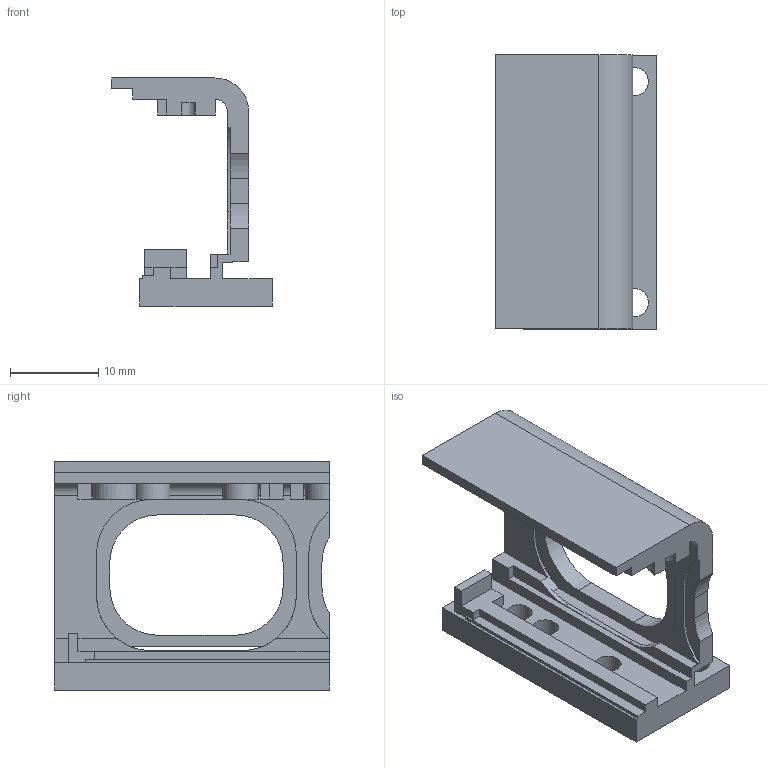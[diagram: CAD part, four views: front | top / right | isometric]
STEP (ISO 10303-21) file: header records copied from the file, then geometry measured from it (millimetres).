
FILE_DESCRIPTION(('Open CASCADE Model'),'2;1');
FILE_NAME('Open CASCADE Shape Model','2026-09-06T11:45:44',('Author'),( 'Open CASCADE'),'Open CASCADE STEP processor 7.7','Open CASCADE 7.7' ,'Unknown');
FILE_SCHEMA(('AUTOMOTIVE_DESIGN { 1 0 10303 214 1 1 1 1 }'));
Length unit declared in the file: millimetre
Products named in the file (1): Open CASCADE STEP translator 7.7 1
Bounding box: 18.2 x 31 x 25.8 mm (x, y, z)
Volume: 3375.8 mm3; surface area: 3726.9 mm2
Topology: 1 solids, 1 shells, 110 faces, 312 edges, 208 vertices
Faces by surface type: plane 82, cylinder 28
Full cylindrical faces by diameter (mm): 1.25 x2, 1.6 x1, 3 x3, 3.2 x2, 4 x1
Entity records: 7659 total; most frequent: CARTESIAN_POINT 1540, DIRECTION 1099, LINE 711, VECTOR 711, ORIENTED_EDGE 624, PCURVE 624, DEFINITIONAL_REPRESENTATION 624, EDGE_CURVE 312
